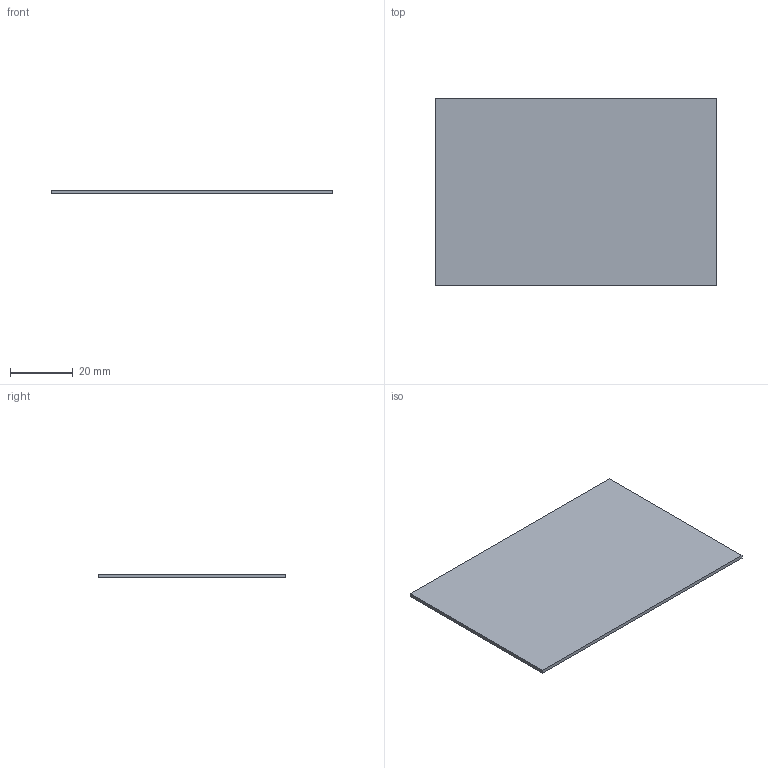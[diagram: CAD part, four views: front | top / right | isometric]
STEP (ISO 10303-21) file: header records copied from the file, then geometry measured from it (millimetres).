
FILE_DESCRIPTION(('Open CASCADE Model'),'2;1');
FILE_NAME('Open CASCADE Shape Model','2026-10-15T15:24:55',('Author'),( 'Open CASCADE'),'Open CASCADE STEP processor 7.5','Open CASCADE 7.5' ,'Unknown');
FILE_SCHEMA(('AUTOMOTIVE_DESIGN { 1 0 10303 214 1 1 1 1 }'));
Length unit declared in the file: millimetre
Products named in the file (3): PCB; Board; Open CASCADE STEP translator 7.5 3.1.1
Assembly tree (2 placements, depth 3):
  PCB
    Board
      Open CASCADE STEP translator 7.5 3.1.1
Bounding box: 90 x 60 x 1.12 mm (x, y, z)
Volume: 6062.5 mm3; surface area: 11136.8 mm2
Topology: 1 solids, 1 shells, 6 faces, 12 edges, 8 vertices
Faces by surface type: plane 6
Entity records: 213 total; most frequent: DIRECTION 30, CARTESIAN_POINT 29, ORIENTED_EDGE 24, EDGE_CURVE 12, LINE 12, VECTOR 12, AXIS2_PLACEMENT_3D 9, VERTEX_POINT 8
